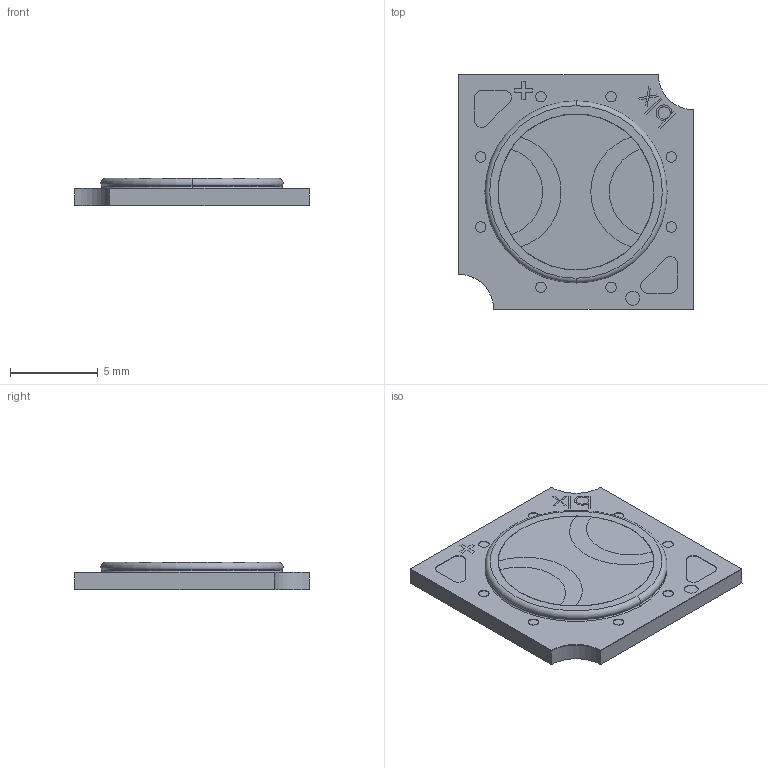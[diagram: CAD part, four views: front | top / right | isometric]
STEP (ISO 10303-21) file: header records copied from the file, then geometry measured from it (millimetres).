
FILE_DESCRIPTION (( 'STEP AP214' ), '1' );
FILE_NAME ('DW9 GEN3 Assembly.STEP', '2024-11-14T09:00:43', ( '' ), ( '' ), 'SwSTEP 2.0', 'SolidWorks 2018', '' );
FILE_SCHEMA (( 'AUTOMOTIVE_DESIGN' ));
Length unit declared in the file: millimetre
Products named in the file (1): DW9 GEN3 Assembly
Bounding box: 13.4 x 13.4 x 1.55 mm (x, y, z)
Volume: 201.7 mm3; surface area: 923.6 mm2
Topology: 8 solids, 8 shells, 180 faces, 467 edges, 310 vertices
Faces by surface type: plane 90, cylinder 76, bspline 8, torus 6
Entity records: 7848 total; most frequent: CARTESIAN_POINT 1172, DIRECTION 953, ORIENTED_EDGE 934, EDGE_CURVE 467, AXIS2_PLACEMENT_3D 339, VERTEX_POINT 310, VECTOR 275, LINE 275
